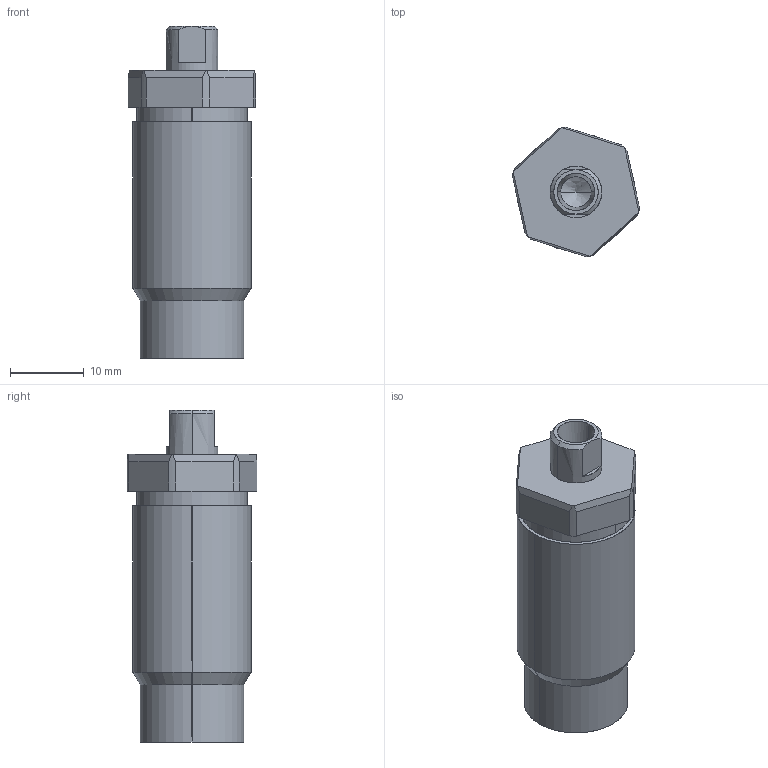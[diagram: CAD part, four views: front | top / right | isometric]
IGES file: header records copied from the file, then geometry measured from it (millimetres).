
Start section: SolidWorks IGES file using analytic representation for surfaces
Global section: file name: E:\ALL SSVT IGS MODEL\ALL THREADED BODY CYLINDER-S-M-L-IGS MODEL\TC06-M160-S-M-L-IGS AND STEPP FILE\TC06-M22X1.5-M.IGS; native system: SolidWorks 2019; preprocessor: SolidWorks 2019; author: SSVT; date: 210827.114102; units: millimetre
Bounding box: 17.25 x 17.57 x 45 mm (x, y, z)
Surface area: 4212.3 mm2 (no closed solid volume)
Topology: 0 solids, 0 shells, 53 faces, 597 edges, 595 vertices
Faces by surface type: revolution 29, bspline 24
